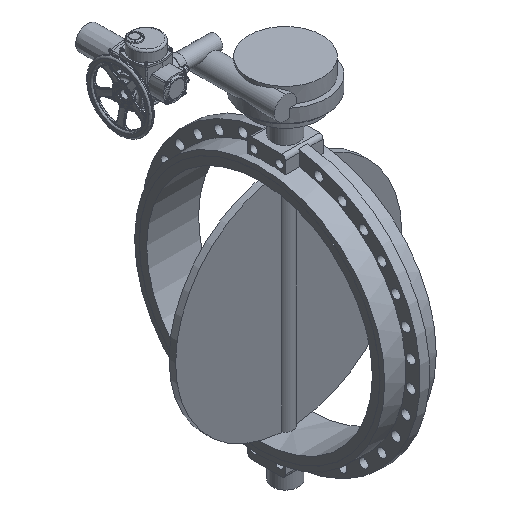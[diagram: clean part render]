
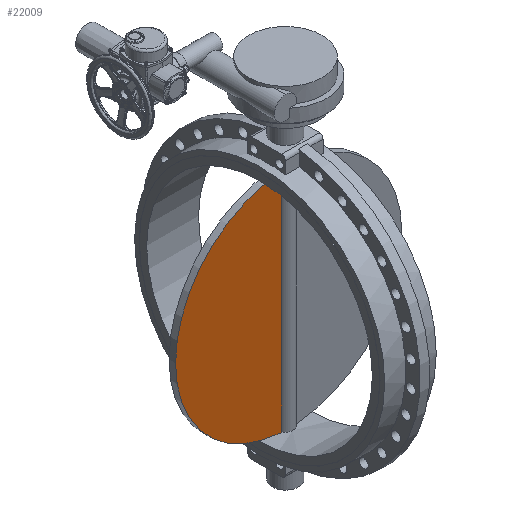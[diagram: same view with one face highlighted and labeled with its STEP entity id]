
A CAD part, isometric view. The second image highlights one B-rep face of the part: STEP entity #22009.
In plain terms, the highlighted planar face has unit normal (0, -1, 0).
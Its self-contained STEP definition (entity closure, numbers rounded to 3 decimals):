
#22009=ADVANCED_FACE('',(#44393),#44395,.T.);
#44393=FACE_BOUND('',#44394,.T.);
#44394=EDGE_LOOP('',(#57055,#57056,#57057,#57058));
#44395=PLANE('',#44396);
#44396=AXIS2_PLACEMENT_3D('',#44397,#44398,#44399);
#44397=CARTESIAN_POINT('',(0.,-17.5,0.));
#44398=DIRECTION('',(0.,-1.,0.));
#44399=DIRECTION('',(0.,0.,1.));
#57055=ORIENTED_EDGE('',*,*,#63454,.T.);
#57056=ORIENTED_EDGE('',*,*,#63315,.T.);
#57057=ORIENTED_EDGE('',*,*,#63453,.T.);
#57058=ORIENTED_EDGE('',*,*,#63329,.T.);
#63315=EDGE_CURVE('',#73584,#73581,#73585,.F.);
#63329=EDGE_CURVE('',#73598,#73610,#73612,.T.);
#63453=EDGE_CURVE('',#73581,#73598,#73792,.T.);
#63454=EDGE_CURVE('',#73610,#73584,#73793,.F.);
#73581=VERTEX_POINT('',#115424);
#73584=VERTEX_POINT('',#115462);
#73585=LINE('',#115463,#115464);
#73598=VERTEX_POINT('',#115650);
#73610=VERTEX_POINT('',#115841);
#73612=LINE('',#115871,#115872);
#73792=CIRCLE('',#116362,601.5);
#73793=LINE('',#116366,#116367);
#115424=CARTESIAN_POINT('',(-45.918,-17.5,599.745));
#115462=CARTESIAN_POINT('',(-35.969,-17.5,599.745));
#115463=CARTESIAN_POINT('',(-45.918,-17.5,599.745));
#115464=VECTOR('',#115465,1.);
#115465=DIRECTION('',(1.,0.,0.));
#115650=CARTESIAN_POINT('',(-45.918,-17.5,-599.745));
#115841=CARTESIAN_POINT('',(-35.969,-17.5,-599.745));
#115871=CARTESIAN_POINT('',(-45.918,-17.5,-599.745));
#115872=VECTOR('',#115873,1.);
#115873=DIRECTION('',(1.,0.,0.));
#116362=AXIS2_PLACEMENT_3D('',#116363,#116364,#116365);
#116363=CARTESIAN_POINT('',(0.,-17.5,0.));
#116364=DIRECTION('',(0.,-1.,0.));
#116365=DIRECTION('',(-0.076,0.,0.997));
#116366=CARTESIAN_POINT('',(-35.969,-17.5,599.745));
#116367=VECTOR('',#116368,1.);
#116368=DIRECTION('',(0.,0.,-1.));
